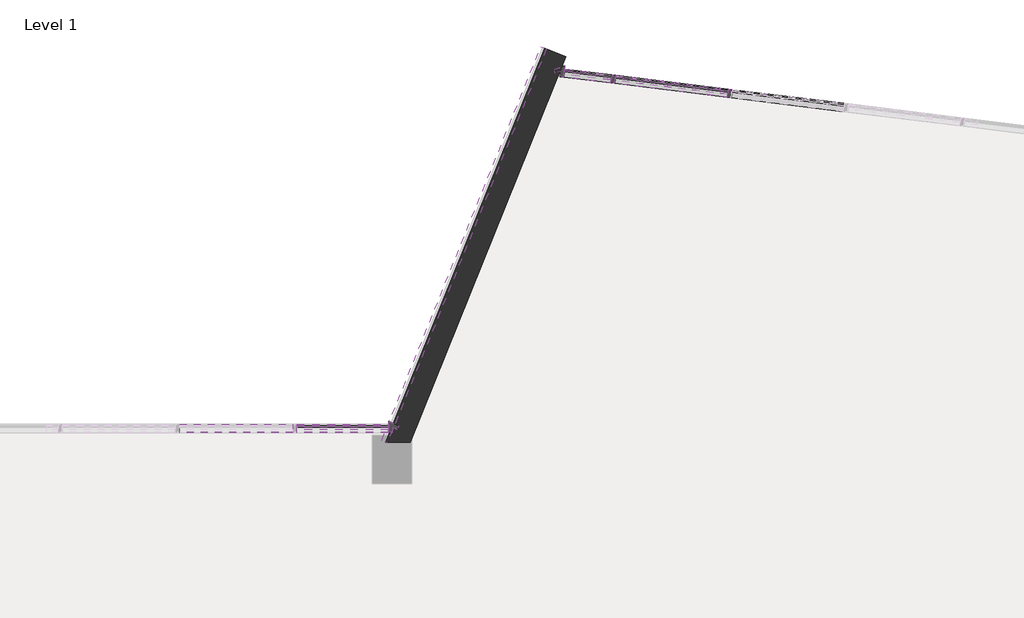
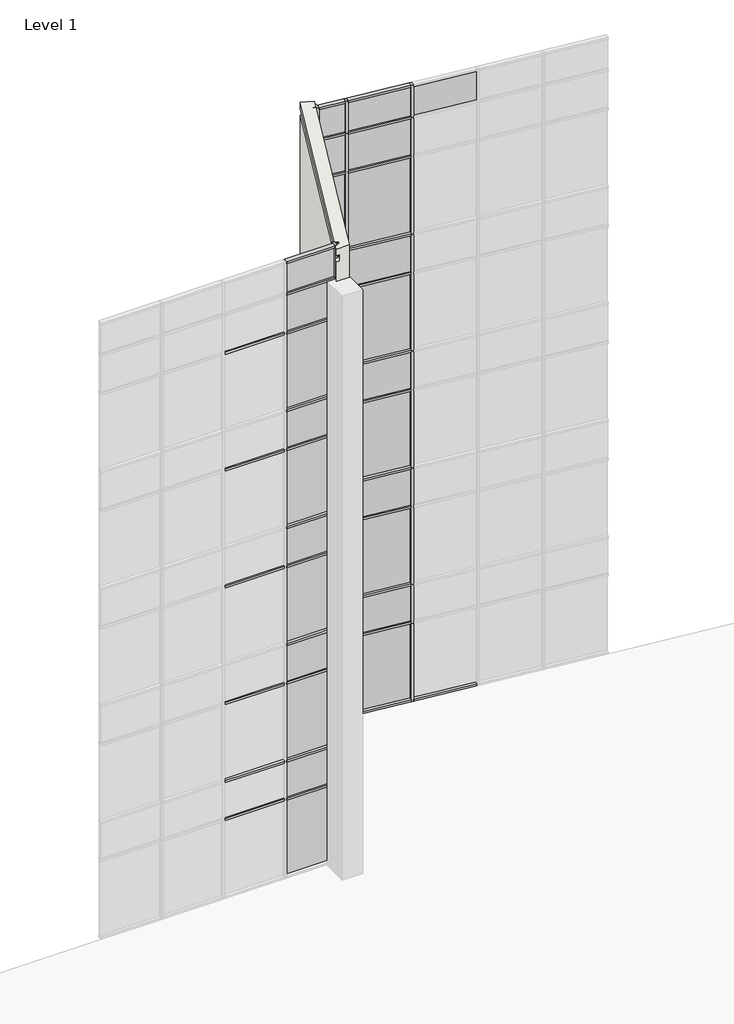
# One storey, part 15 of 23: 70 members, 34 plates, 3 proxies, 1 wall.
"""IFC4 building model written with IfcOpenShell, lengths in millimetres."""

from ifc_helpers import new_model, si_unit, frame, origin, place, context, project, spatial, polyline, outline, extrude, faceted_brep, transform, mapped, element, save
from components import member_2b49869a, member_f92b8aa2, member_810865a4, member_f0fea5a5, member_6d5c3e5e, member_9764dd38, member_68903c03, member_7219d7ff, member_cc38cd3f, member_0a5976d9, member_6a741917, member_6ebc2d4b, member_919c0065, member_55b94c3e, system_panel_glazed_14c75400, system_panel_glazed_66de9db6, system_panel_glazed_9a20f630, system_panel_solid_5dfe6f83, system_panel_solid_e25e2004, system_panel_solid_b7551183, system_panel_solid_d08dec6a, system_panel_solid_86eb1eeb, system_panel_solid_a5e4950d, system_panel_solid_056e0ced, system_panel_solid_5f34d272, system_panel_solid_2b1a41ae

model = new_model("IFC4")

# Units and contexts
model_context = context("Model", 3, world=origin())
ifc_project = project(units=[si_unit("LENGTHUNIT", "METRE", prefix="MILLI")], contexts=[model_context])

# Site, building, storey
site = spatial("IfcSite", under=ifc_project)
building = spatial("IfcBuilding", under=site)
storey = spatial("IfcBuildingStorey", under=building, Name="Level 1", Elevation=0.0)

# Proxies
placement = place(None, origin())
element("IfcBuildingElementProxy", 1, Name="Reveals", at=placement, inside=storey, context=model_context, shape_type="SweptSolid", body=[
    extrude(outline(polyline([(-32824.629873, 9795.5496433), (-32910.0003265, 9830.0415454), (-30426.2719644, 15977.4849617), (-30340.901511, 15942.9930596), (-32824.629873, 9795.5496433)])), frame((0.0, 0.0, 1625.6), z_axis=(0.0, 0.0, 1.0), x_axis=(1.0, 0.0, 0.0)), (0.0, 0.0, 1.0), 67.7333333),
])
element("IfcBuildingElementProxy", 2, Name="Reveals", at=placement, inside=storey, context=model_context, shape_type="SweptSolid", body=[
    extrude(outline(polyline([(-32824.629873, 9795.5496433), (-32910.0003265, 9830.0415454), (-30426.2719644, 15977.4849617), (-30340.901511, 15942.9930596), (-32824.629873, 9795.5496433)])), frame((0.0, 0.0, 2235.2), z_axis=(0.0, 0.0, 1.0), x_axis=(1.0, 0.0, 0.0)), (0.0, 0.0, 1.0), 67.7333333),
])
element("IfcBuildingElementProxy", 3, Name="Reveals", at=placement, inside=storey, context=model_context, shape_type="SweptSolid", body=[
    extrude(outline(polyline([(-32824.629873, 9795.5496433), (-32910.0003265, 9830.0415454), (-30426.2719644, 15977.4849617), (-30340.901511, 15942.9930596), (-32824.629873, 9795.5496433)])), frame((0.0, 0.0, 2844.8), z_axis=(0.0, 0.0, 1.0), x_axis=(1.0, 0.0, 0.0)), (0.0, 0.0, 1.0), 67.7333333),
])

# Members
member_shape = member_2b49869a(model_context)
element("IfcMember", 4, ObjectType="Rectangular Mullion : 2.5\" x 5\" rectangular", at=placement, inside=storey, context=model_context, shape_type="MappedRepresentation", body=[
    mapped(member_shape, transform((-27482.5203826, 15245.7903744, 2438.4), x_axis=(0.9925461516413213, -0.12186934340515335, 0.0), y_axis=(-0.12186934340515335, -0.9925461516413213, 0.0), z_axis=(0.0, 0.0, -1.0))),
])
element("IfcMember", 5, ObjectType="Rectangular Mullion : 2.5\" x 5\" rectangular", at=placement, inside=storey, context=model_context, shape_type="MappedRepresentation", body=[
    mapped(member_shape, transform((-29297.6887847, 15468.6650296, 2438.4), x_axis=(0.9925461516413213, -0.12186934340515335, 0.0), y_axis=(-0.12186934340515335, -0.9925461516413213, 0.0), z_axis=(0.0, 0.0, -1.0))),
])
member_2_shape = member_f92b8aa2(model_context)
element("IfcMember", 6, ObjectType="Rectangular Mullion : 2.5\" x 5\" rectangular", at=placement, inside=storey, context=model_context, shape_type="MappedRepresentation", body=[
    mapped(member_2_shape, transform((-27482.5203826, 15245.7903744, 18288.0), x_axis=(0.9925461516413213, -0.12186934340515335, 0.0), y_axis=(-0.12186934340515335, -0.9925461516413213, 0.0), z_axis=(0.0, 0.0, -1.0))),
])
element("IfcMember", 7, ObjectType="Rectangular Mullion : 2.5\" x 5\" rectangular", at=placement, inside=storey, context=model_context, shape_type="MappedRepresentation", body=[
    mapped(member_2_shape, transform((-29297.6887847, 15468.6650296, 18288.0), x_axis=(0.9925461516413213, -0.12186934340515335, 0.0), y_axis=(-0.12186934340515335, -0.9925461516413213, 0.0), z_axis=(0.0, 0.0, -1.0))),
])
member_3_shape = member_810865a4(model_context)
element("IfcMember", 8, ObjectType="Rectangular Mullion : 2.5\" x 5\" rectangular", at=placement, inside=storey, context=model_context, shape_type="MappedRepresentation", body=[
    mapped(member_3_shape, transform((-27482.5203826, 15245.7903744, 14630.4), x_axis=(0.9925461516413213, -0.12186934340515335, 0.0), y_axis=(-0.12186934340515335, -0.9925461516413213, 0.0), z_axis=(0.0, 0.0, -1.0))),
])
element("IfcMember", 9, ObjectType="Rectangular Mullion : 2.5\" x 5\" rectangular", at=placement, inside=storey, context=model_context, shape_type="MappedRepresentation", body=[
    mapped(member_3_shape, transform((-27482.5203826, 15245.7903744, 10972.8), x_axis=(0.9925461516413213, -0.12186934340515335, 0.0), y_axis=(-0.12186934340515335, -0.9925461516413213, 0.0), z_axis=(0.0, 0.0, -1.0))),
])
element("IfcMember", 10, ObjectType="Rectangular Mullion : 2.5\" x 5\" rectangular", at=placement, inside=storey, context=model_context, shape_type="MappedRepresentation", body=[
    mapped(member_3_shape, transform((-27482.5203826, 15245.7903744, 7315.2), x_axis=(0.9925461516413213, -0.12186934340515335, 0.0), y_axis=(-0.12186934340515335, -0.9925461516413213, 0.0), z_axis=(0.0, 0.0, -1.0))),
])
element("IfcMember", 11, ObjectType="Rectangular Mullion : 2.5\" x 5\" rectangular", at=placement, inside=storey, context=model_context, shape_type="MappedRepresentation", body=[
    mapped(member_3_shape, transform((-27482.5203826, 15245.7903744, 3657.6), x_axis=(0.9925461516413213, -0.12186934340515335, 0.0), y_axis=(-0.12186934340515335, -0.9925461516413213, 0.0), z_axis=(0.0, 0.0, -1.0))),
])
element("IfcMember", 12, ObjectType="Rectangular Mullion : 2.5\" x 5\" rectangular", at=placement, inside=storey, context=model_context, shape_type="MappedRepresentation", body=[
    mapped(member_3_shape, transform((-29297.6887847, 15468.6650296, 14630.4), x_axis=(0.9925461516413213, -0.12186934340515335, 0.0), y_axis=(-0.12186934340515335, -0.9925461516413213, 0.0), z_axis=(0.0, 0.0, -1.0))),
])
element("IfcMember", 13, ObjectType="Rectangular Mullion : 2.5\" x 5\" rectangular", at=placement, inside=storey, context=model_context, shape_type="MappedRepresentation", body=[
    mapped(member_3_shape, transform((-29297.6887847, 15468.6650296, 10972.8), x_axis=(0.9925461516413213, -0.12186934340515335, 0.0), y_axis=(-0.12186934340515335, -0.9925461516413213, 0.0), z_axis=(0.0, 0.0, -1.0))),
])
element("IfcMember", 14, ObjectType="Rectangular Mullion : 2.5\" x 5\" rectangular", at=placement, inside=storey, context=model_context, shape_type="MappedRepresentation", body=[
    mapped(member_3_shape, transform((-29297.6887847, 15468.6650296, 7315.2), x_axis=(0.9925461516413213, -0.12186934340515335, 0.0), y_axis=(-0.12186934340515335, -0.9925461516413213, 0.0), z_axis=(0.0, 0.0, -1.0))),
])
element("IfcMember", 15, ObjectType="Rectangular Mullion : 2.5\" x 5\" rectangular", at=placement, inside=storey, context=model_context, shape_type="MappedRepresentation", body=[
    mapped(member_3_shape, transform((-29297.6887847, 15468.6650296, 3657.6), x_axis=(0.9925461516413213, -0.12186934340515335, 0.0), y_axis=(-0.12186934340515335, -0.9925461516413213, 0.0), z_axis=(0.0, 0.0, -1.0))),
])
member_4_shape = member_f0fea5a5(model_context)
element("IfcMember", 16, ObjectType="Rectangular Mullion : 2.5\" x 5\" rectangular", at=placement, inside=storey, context=model_context, shape_type="MappedRepresentation", body=[
    mapped(member_4_shape, transform((-27482.5203826, 15245.7903744, 0.0), x_axis=(0.9925461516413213, -0.12186934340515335, 0.0), y_axis=(-0.12186934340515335, -0.9925461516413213, 0.0), z_axis=(0.0, 0.0, -1.0))),
])
element("IfcMember", 17, ObjectType="Rectangular Mullion : 2.5\" x 5\" rectangular", at=placement, inside=storey, context=model_context, shape_type="MappedRepresentation", body=[
    mapped(member_4_shape, transform((-29297.6887847, 15468.6650296, 0.0), x_axis=(0.9925461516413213, -0.12186934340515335, 0.0), y_axis=(-0.12186934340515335, -0.9925461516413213, 0.0), z_axis=(0.0, 0.0, -1.0))),
])
member_5_shape = member_6d5c3e5e(model_context)
element("IfcMember", 18, ObjectType="Rectangular Mullion : 2.5\" x 5\" rectangular", at=placement, inside=storey, context=model_context, shape_type="MappedRepresentation", body=[
    mapped(member_5_shape, transform((-27514.0337229, 15249.659726, 19304.0), x_axis=(0.0, 0.0, 1.0), y_axis=(-0.12186934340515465, -0.9925461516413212, 0.0), z_axis=(0.9925461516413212, -0.12186934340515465, 0.0))),
])
member_6_shape = member_9764dd38(model_context)
element("IfcMember", 19, ObjectType="Rectangular Mullion : 2.5\" x 5\" rectangular", at=placement, inside=storey, context=model_context, shape_type="MappedRepresentation", body=[
    mapped(member_6_shape, transform((-34300.3873649, 10017.7896508, 17068.8), x_axis=(0.0, 0.0, 1.0), y_axis=(0.0, -1.0, 0.0), z_axis=(1.0, 0.0, 0.0))),
])
element("IfcMember", 20, ObjectType="Rectangular Mullion : 2.5\" x 5\" rectangular", at=placement, inside=storey, context=model_context, shape_type="MappedRepresentation", body=[
    mapped(member_6_shape, transform((-34300.3873649, 10017.7896508, 13411.2), x_axis=(0.0, 0.0, 1.0), y_axis=(0.0, -1.0, 0.0), z_axis=(1.0, 0.0, 0.0))),
])
element("IfcMember", 21, ObjectType="Rectangular Mullion : 2.5\" x 5\" rectangular", at=placement, inside=storey, context=model_context, shape_type="MappedRepresentation", body=[
    mapped(member_6_shape, transform((-34300.3873649, 10017.7896508, 9753.6), x_axis=(0.0, 0.0, 1.0), y_axis=(0.0, -1.0, 0.0), z_axis=(1.0, 0.0, 0.0))),
])
element("IfcMember", 22, ObjectType="Rectangular Mullion : 2.5\" x 5\" rectangular", at=placement, inside=storey, context=model_context, shape_type="MappedRepresentation", body=[
    mapped(member_6_shape, transform((-34300.3873649, 10017.7896508, 6096.0), x_axis=(0.0, 0.0, 1.0), y_axis=(0.0, -1.0, 0.0), z_axis=(1.0, 0.0, 0.0))),
])
element("IfcMember", 23, ObjectType="Rectangular Mullion : 2.5\" x 5\" rectangular", at=placement, inside=storey, context=model_context, shape_type="MappedRepresentation", body=[
    mapped(member_6_shape, transform((-34300.3873649, 10017.7896508, 2470.15), x_axis=(0.0, 0.0, 1.0), y_axis=(0.0, -1.0, 0.0), z_axis=(1.0, 0.0, 0.0))),
])
element("IfcMember", 24, ObjectType="Rectangular Mullion : 2.5\" x 5\" rectangular", at=placement, inside=storey, context=model_context, shape_type="MappedRepresentation", body=[
    mapped(member_6_shape, transform((-27514.0337229, 15249.659726, 17068.8), x_axis=(0.0, 0.0, 1.0), y_axis=(-0.12186934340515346, -0.9925461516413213, 0.0), z_axis=(0.9925461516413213, -0.12186934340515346, 0.0))),
])
element("IfcMember", 25, ObjectType="Rectangular Mullion : 2.5\" x 5\" rectangular", at=placement, inside=storey, context=model_context, shape_type="MappedRepresentation", body=[
    mapped(member_6_shape, transform((-27514.0337229, 15249.659726, 13411.2), x_axis=(0.0, 0.0, 1.0), y_axis=(-0.12186934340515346, -0.9925461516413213, 0.0), z_axis=(0.9925461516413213, -0.12186934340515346, 0.0))),
])
element("IfcMember", 26, ObjectType="Rectangular Mullion : 2.5\" x 5\" rectangular", at=placement, inside=storey, context=model_context, shape_type="MappedRepresentation", body=[
    mapped(member_6_shape, transform((-27514.0337229, 15249.659726, 9753.6), x_axis=(0.0, 0.0, 1.0), y_axis=(-0.12186934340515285, -0.9925461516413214, 0.0), z_axis=(0.9925461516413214, -0.12186934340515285, 0.0))),
])
element("IfcMember", 27, ObjectType="Rectangular Mullion : 2.5\" x 5\" rectangular", at=placement, inside=storey, context=model_context, shape_type="MappedRepresentation", body=[
    mapped(member_6_shape, transform((-27514.0337229, 15249.659726, 6096.0), x_axis=(0.0, 0.0, 1.0), y_axis=(-0.12186934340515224, -0.9925461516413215, 0.0), z_axis=(0.9925461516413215, -0.12186934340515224, 0.0))),
])
element("IfcMember", 28, ObjectType="Rectangular Mullion : 2.5\" x 5\" rectangular", at=placement, inside=storey, context=model_context, shape_type="MappedRepresentation", body=[
    mapped(member_6_shape, transform((-27514.0337229, 15249.659726, 2470.15), x_axis=(0.0, 0.0, 1.0), y_axis=(-0.12186934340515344, -0.9925461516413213, 0.0), z_axis=(0.9925461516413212, -0.12186934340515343, 0.0))),
])
member_7_shape = member_68903c03(model_context)
element("IfcMember", 29, ObjectType="Rectangular Mullion : 2.5\" x 5\" rectangular", at=placement, inside=storey, context=model_context, shape_type="MappedRepresentation", body=[
    mapped(member_7_shape, transform((-32803.9376149, 10017.7896508, 19304.0), x_axis=(0.0, 0.0, 1.0), y_axis=(0.0, -1.0, 0.0), z_axis=(1.0, 0.0, 0.0))),
])
member_8_shape = member_7219d7ff(model_context)
element("IfcMember", 30, ObjectType="Rectangular Mullion : 2.5\" x 5\" rectangular", at=placement, inside=storey, context=model_context, shape_type="MappedRepresentation", body=[
    mapped(member_8_shape, transform((-29329.202125, 15472.5343812, 19304.0), x_axis=(0.0, 0.0, 1.0), y_axis=(-0.1218693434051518, -0.9925461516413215, 0.0), z_axis=(0.9925461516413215, -0.1218693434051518, 0.0))),
])
member_9_shape = member_cc38cd3f(model_context)
element("IfcMember", 31, ObjectType="Rectangular Mullion : 2.5\" x 5\" rectangular", at=placement, inside=storey, context=model_context, shape_type="MappedRepresentation", body=[
    mapped(member_9_shape, transform((-32803.9376149, 10017.7896508, 17068.8), x_axis=(0.0, 0.0, 1.0), y_axis=(0.0, -1.0, 0.0), z_axis=(1.0, 0.0, 0.0))),
])
element("IfcMember", 32, ObjectType="Rectangular Mullion : 2.5\" x 5\" rectangular", at=placement, inside=storey, context=model_context, shape_type="MappedRepresentation", body=[
    mapped(member_9_shape, transform((-32803.9376149, 10017.7896508, 13411.2), x_axis=(0.0, 0.0, 1.0), y_axis=(0.0, -1.0, 0.0), z_axis=(1.0, 0.0, 0.0))),
])
element("IfcMember", 33, ObjectType="Rectangular Mullion : 2.5\" x 5\" rectangular", at=placement, inside=storey, context=model_context, shape_type="MappedRepresentation", body=[
    mapped(member_9_shape, transform((-32803.9376149, 10017.7896508, 9753.6), x_axis=(0.0, 0.0, 1.0), y_axis=(0.0, -1.0, 0.0), z_axis=(1.0, 0.0, 0.0))),
])
element("IfcMember", 34, ObjectType="Rectangular Mullion : 2.5\" x 5\" rectangular", at=placement, inside=storey, context=model_context, shape_type="MappedRepresentation", body=[
    mapped(member_9_shape, transform((-32803.9376149, 10017.7896508, 6096.0), x_axis=(0.0, 0.0, 1.0), y_axis=(0.0, -1.0, 0.0), z_axis=(1.0, 0.0, 0.0))),
])
element("IfcMember", 35, ObjectType="Rectangular Mullion : 2.5\" x 5\" rectangular", at=placement, inside=storey, context=model_context, shape_type="MappedRepresentation", body=[
    mapped(member_9_shape, transform((-32803.9376149, 10017.7896508, 2470.15), x_axis=(0.0, 0.0, 1.0), y_axis=(0.0, -1.0, 0.0), z_axis=(1.0, 0.0, 0.0))),
])
member_10_shape = member_0a5976d9(model_context)
element("IfcMember", 36, ObjectType="Rectangular Mullion : 2.5\" x 5\" rectangular", at=placement, inside=storey, context=model_context, shape_type="MappedRepresentation", body=[
    mapped(member_10_shape, transform((-29329.202125, 15472.5343812, 17068.8), x_axis=(0.0, 0.0, 1.0), y_axis=(-0.121869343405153, -0.9925461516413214, 0.0), z_axis=(0.9925461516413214, -0.121869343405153, 0.0))),
])
element("IfcMember", 37, ObjectType="Rectangular Mullion : 2.5\" x 5\" rectangular", at=placement, inside=storey, context=model_context, shape_type="MappedRepresentation", body=[
    mapped(member_10_shape, transform((-29329.202125, 15472.5343812, 13411.2), x_axis=(0.0, 0.0, 1.0), y_axis=(-0.12186934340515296, -0.9925461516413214, 0.0), z_axis=(0.9925461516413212, -0.12186934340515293, 0.0))),
])
element("IfcMember", 38, ObjectType="Rectangular Mullion : 2.5\" x 5\" rectangular", at=placement, inside=storey, context=model_context, shape_type="MappedRepresentation", body=[
    mapped(member_10_shape, transform((-29329.202125, 15472.5343812, 9753.6), x_axis=(0.0, 0.0, 1.0), y_axis=(-0.121869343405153, -0.9925461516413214, 0.0), z_axis=(0.9925461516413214, -0.121869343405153, 0.0))),
])
element("IfcMember", 39, ObjectType="Rectangular Mullion : 2.5\" x 5\" rectangular", at=placement, inside=storey, context=model_context, shape_type="MappedRepresentation", body=[
    mapped(member_10_shape, transform((-29329.202125, 15472.5343812, 6096.0), x_axis=(0.0, 0.0, 1.0), y_axis=(-0.12186934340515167, -0.9925461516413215, 0.0), z_axis=(0.9925461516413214, -0.12186934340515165, 0.0))),
])
element("IfcMember", 40, ObjectType="Rectangular Mullion : 2.5\" x 5\" rectangular", at=placement, inside=storey, context=model_context, shape_type="MappedRepresentation", body=[
    mapped(member_10_shape, transform((-29329.202125, 15472.5343812, 2470.15), x_axis=(0.0, 0.0, 1.0), y_axis=(-0.12186934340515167, -0.9925461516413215, 0.0), z_axis=(0.9925461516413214, -0.12186934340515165, 0.0))),
])
element("IfcMember", 41, ObjectType="Rectangular Mullion : 2.5\" x 5\" rectangular", at=placement, inside=storey, context=model_context, shape_type="MappedRepresentation", body=[
    mapped(member_5_shape, transform((-27451.0070423, 15241.9210227, 0.0), x_axis=(0.0, 0.0, -1.0), y_axis=(-0.12186934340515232, -0.9925461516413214, 0.0), z_axis=(-0.9925461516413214, 0.12186934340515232, 0.0))),
])
element("IfcMember", 42, ObjectType="Rectangular Mullion : 2.5\" x 5\" rectangular", at=placement, inside=storey, context=model_context, shape_type="MappedRepresentation", body=[
    mapped(member_5_shape, transform((-29266.1754444, 15464.7956779, 0.0), x_axis=(0.0, 0.0, -1.0), y_axis=(-0.12186934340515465, -0.9925461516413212, 0.0), z_axis=(-0.9925461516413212, 0.12186934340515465, 0.0))),
])
element("IfcMember", 43, ObjectType="Rectangular Mullion : 2.5\" x 5\" rectangular", at=placement, inside=storey, context=model_context, shape_type="MappedRepresentation", body=[
    mapped(member_8_shape, transform((-30066.1590207, 15563.0213101, 0.0), x_axis=(0.0, 0.0, -1.0), y_axis=(-0.1218693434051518, -0.9925461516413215, 0.0), z_axis=(-0.9925461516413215, 0.1218693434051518, 0.0))),
])
element("IfcMember", 44, ObjectType="Rectangular Mullion : 2.5\" x 5\" rectangular", at=placement, inside=storey, context=model_context, shape_type="MappedRepresentation", body=[
    mapped(member_6_shape, transform((-27514.0337229, 15249.659726, 10972.8), x_axis=(0.0, 0.0, 1.0), y_axis=(-0.12186934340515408, -0.9925461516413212, 0.0), z_axis=(0.9925461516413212, -0.12186934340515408, 0.0))),
])
element("IfcMember", 45, ObjectType="Rectangular Mullion : 2.5\" x 5\" rectangular", at=placement, inside=storey, context=model_context, shape_type="MappedRepresentation", body=[
    mapped(member_6_shape, transform((-27514.0337229, 15249.659726, 7315.2), x_axis=(0.0, 0.0, 1.0), y_axis=(-0.12186934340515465, -0.9925461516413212, 0.0), z_axis=(0.9925461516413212, -0.12186934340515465, 0.0))),
])
element("IfcMember", 46, ObjectType="Rectangular Mullion : 2.5\" x 5\" rectangular", at=placement, inside=storey, context=model_context, shape_type="MappedRepresentation", body=[
    mapped(member_6_shape, transform((-27514.0337229, 15249.659726, 18288.0), x_axis=(0.0, 0.0, 1.0), y_axis=(-0.12186934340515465, -0.9925461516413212, 0.0), z_axis=(0.9925461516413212, -0.12186934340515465, 0.0))),
])
element("IfcMember", 47, ObjectType="Rectangular Mullion : 2.5\" x 5\" rectangular", at=placement, inside=storey, context=model_context, shape_type="MappedRepresentation", body=[
    mapped(member_6_shape, transform((-27514.0337229, 15249.659726, 14630.4), x_axis=(0.0, 0.0, 1.0), y_axis=(-0.12186934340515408, -0.9925461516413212, 0.0), z_axis=(0.9925461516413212, -0.12186934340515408, 0.0))),
])
element("IfcMember", 48, ObjectType="Rectangular Mullion : 2.5\" x 5\" rectangular", at=placement, inside=storey, context=model_context, shape_type="MappedRepresentation", body=[
    mapped(member_6_shape, transform((-27514.0337229, 15249.659726, 3657.6), x_axis=(0.0, 0.0, 1.0), y_axis=(-0.12186934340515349, -0.9925461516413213, 0.0), z_axis=(0.9925461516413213, -0.12186934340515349, 0.0))),
])
element("IfcMember", 49, ObjectType="Rectangular Mullion : 2.5\" x 5\" rectangular", at=placement, inside=storey, context=model_context, shape_type="MappedRepresentation", body=[
    mapped(member_6_shape, transform((-34300.3873649, 10017.7896508, 3657.6), x_axis=(0.0, 0.0, 1.0), y_axis=(0.0, -1.0, 0.0), z_axis=(1.0, 0.0, 0.0))),
])
element("IfcMember", 50, ObjectType="Rectangular Mullion : 2.5\" x 5\" rectangular", at=placement, inside=storey, context=model_context, shape_type="MappedRepresentation", body=[
    mapped(member_9_shape, transform((-32803.9376149, 10017.7896508, 10972.8), x_axis=(0.0, 0.0, 1.0), y_axis=(0.0, -1.0, 0.0), z_axis=(1.0, 0.0, 0.0))),
])
element("IfcMember", 51, ObjectType="Rectangular Mullion : 2.5\" x 5\" rectangular", at=placement, inside=storey, context=model_context, shape_type="MappedRepresentation", body=[
    mapped(member_9_shape, transform((-32803.9376149, 10017.7896508, 7315.2), x_axis=(0.0, 0.0, 1.0), y_axis=(0.0, -1.0, 0.0), z_axis=(1.0, 0.0, 0.0))),
])
element("IfcMember", 52, ObjectType="Rectangular Mullion : 2.5\" x 5\" rectangular", at=placement, inside=storey, context=model_context, shape_type="MappedRepresentation", body=[
    mapped(member_9_shape, transform((-32803.9376149, 10017.7896508, 18288.0), x_axis=(0.0, 0.0, 1.0), y_axis=(0.0, -1.0, 0.0), z_axis=(1.0, 0.0, 0.0))),
])
element("IfcMember", 53, ObjectType="Rectangular Mullion : 2.5\" x 5\" rectangular", at=placement, inside=storey, context=model_context, shape_type="MappedRepresentation", body=[
    mapped(member_9_shape, transform((-32803.9376149, 10017.7896508, 14630.4), x_axis=(0.0, 0.0, 1.0), y_axis=(0.0, -1.0, 0.0), z_axis=(1.0, 0.0, 0.0))),
])
element("IfcMember", 54, ObjectType="Rectangular Mullion : 2.5\" x 5\" rectangular", at=placement, inside=storey, context=model_context, shape_type="MappedRepresentation", body=[
    mapped(member_9_shape, transform((-32803.9376149, 10017.7896508, 3657.6), x_axis=(0.0, 0.0, 1.0), y_axis=(0.0, -1.0, 0.0), z_axis=(1.0, 0.0, 0.0))),
])
element("IfcMember", 55, ObjectType="Rectangular Mullion : 2.5\" x 5\" rectangular", at=placement, inside=storey, context=model_context, shape_type="MappedRepresentation", body=[
    mapped(member_10_shape, transform((-29329.202125, 15472.5343812, 10972.8), x_axis=(0.0, 0.0, 1.0), y_axis=(-0.12186934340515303, -0.9925461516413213, 0.0), z_axis=(0.9925461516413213, -0.12186934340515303, 0.0))),
])
element("IfcMember", 56, ObjectType="Rectangular Mullion : 2.5\" x 5\" rectangular", at=placement, inside=storey, context=model_context, shape_type="MappedRepresentation", body=[
    mapped(member_10_shape, transform((-29329.202125, 15472.5343812, 7315.2), x_axis=(0.0, 0.0, 1.0), y_axis=(-0.1218693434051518, -0.9925461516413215, 0.0), z_axis=(0.9925461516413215, -0.1218693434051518, 0.0))),
])
element("IfcMember", 57, ObjectType="Rectangular Mullion : 2.5\" x 5\" rectangular", at=placement, inside=storey, context=model_context, shape_type="MappedRepresentation", body=[
    mapped(member_10_shape, transform((-29329.202125, 15472.5343812, 18288.0), x_axis=(0.0, 0.0, 1.0), y_axis=(-0.1218693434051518, -0.9925461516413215, 0.0), z_axis=(0.9925461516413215, -0.1218693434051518, 0.0))),
])
element("IfcMember", 58, ObjectType="Rectangular Mullion : 2.5\" x 5\" rectangular", at=placement, inside=storey, context=model_context, shape_type="MappedRepresentation", body=[
    mapped(member_10_shape, transform((-29329.202125, 15472.5343812, 14630.4), x_axis=(0.0, 0.0, 1.0), y_axis=(-0.12186934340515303, -0.9925461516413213, 0.0), z_axis=(0.9925461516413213, -0.12186934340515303, 0.0))),
])
element("IfcMember", 59, ObjectType="Rectangular Mullion : 2.5\" x 5\" rectangular", at=placement, inside=storey, context=model_context, shape_type="MappedRepresentation", body=[
    mapped(member_10_shape, transform((-29329.202125, 15472.5343812, 3657.6), x_axis=(0.0, 0.0, 1.0), y_axis=(-0.12186934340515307, -0.9925461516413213, 0.0), z_axis=(0.9925461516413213, -0.12186934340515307, 0.0))),
])
member_11_shape = member_6a741917(model_context)
element("IfcMember", 60, ObjectType="V Corner Mullion : 5\" V Corner", at=placement, inside=storey, context=model_context, shape_type="MappedRepresentation", body=[
    mapped(member_11_shape, transform((-32731.4147338, 10017.7896508, 0.0), x_axis=(1.0, 0.0, 0.0), y_axis=(0.0, -1.0, 0.0), z_axis=(0.0, 0.0, -1.0))),
])
member_12_shape = member_6ebc2d4b(model_context)
element("IfcMember", 61, ObjectType="V Corner Mullion : 5\" V Corner", at=placement, inside=storey, context=model_context, shape_type="MappedRepresentation", body=[
    mapped(member_12_shape, transform((-32731.4147338, 10017.7896508, 3657.6), x_axis=(1.0, 0.0, 0.0), y_axis=(0.0, -1.0, 0.0), z_axis=(0.0, 0.0, -1.0))),
])
element("IfcMember", 62, ObjectType="V Corner Mullion : 5\" V Corner", at=placement, inside=storey, context=model_context, shape_type="MappedRepresentation", body=[
    mapped(member_12_shape, transform((-32731.4147338, 10017.7896508, 7315.2), x_axis=(1.0, 0.0, 0.0), y_axis=(0.0, -1.0, 0.0), z_axis=(0.0, 0.0, -1.0))),
])
element("IfcMember", 63, ObjectType="V Corner Mullion : 5\" V Corner", at=placement, inside=storey, context=model_context, shape_type="MappedRepresentation", body=[
    mapped(member_12_shape, transform((-32731.4147338, 10017.7896508, 10972.8), x_axis=(1.0, 0.0, 0.0), y_axis=(0.0, -1.0, 0.0), z_axis=(0.0, 0.0, -1.0))),
])
element("IfcMember", 64, ObjectType="V Corner Mullion : 5\" V Corner", at=placement, inside=storey, context=model_context, shape_type="MappedRepresentation", body=[
    mapped(member_12_shape, transform((-32731.4147338, 10017.7896508, 14630.4), x_axis=(1.0, 0.0, 0.0), y_axis=(0.0, -1.0, 0.0), z_axis=(0.0, 0.0, -1.0))),
])
member_13_shape = member_919c0065(model_context)
element("IfcMember", 65, ObjectType="V Corner Mullion : 5\" V Corner", at=placement, inside=storey, context=model_context, shape_type="MappedRepresentation", body=[
    mapped(member_13_shape, transform((-32731.4147338, 10017.7896508, 18288.0), x_axis=(1.0, 0.0, 0.0), y_axis=(0.0, -1.0, 0.0), z_axis=(0.0, 0.0, -1.0))),
])
member_14_shape = member_55b94c3e(model_context)
element("IfcMember", 66, ObjectType="V Corner Mullion : 5\" V Corner", at=placement, inside=storey, context=model_context, shape_type="MappedRepresentation", body=[
    mapped(member_14_shape, transform((-32731.4147338, 10017.7896508, 2438.4), x_axis=(1.0, 0.0, 0.0), y_axis=(0.0, -1.0, 0.0), z_axis=(0.0, 0.0, -1.0))),
])
element("IfcMember", 67, ObjectType="V Corner Mullion : 5\" V Corner", at=placement, inside=storey, context=model_context, shape_type="MappedRepresentation", body=[
    mapped(member_13_shape, transform((-30138.1413273, 15571.859626, 19304.0), x_axis=(-0.9925461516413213, 0.12186934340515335, 0.0), y_axis=(-0.12186934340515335, -0.9925461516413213, 0.0), z_axis=(0.0, 0.0, 1.0))),
])
element("IfcMember", 68, ObjectType="V Corner Mullion : 5\" V Corner", at=placement, inside=storey, context=model_context, shape_type="MappedRepresentation", body=[
    mapped(member_11_shape, transform((-30138.1413273, 15571.859626, 2438.4), x_axis=(-0.9925461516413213, 0.12186934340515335, 0.0), y_axis=(-0.12186934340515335, -0.9925461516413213, 0.0), z_axis=(0.0, 0.0, 1.0))),
])
element("IfcMember", 69, ObjectType="V Corner Mullion : 5\" V Corner", at=placement, inside=storey, context=model_context, shape_type="MappedRepresentation", body=[
    mapped(member_14_shape, transform((-30138.1413273, 15571.859626, 3657.6), x_axis=(-0.9925461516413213, 0.12186934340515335, 0.0), y_axis=(-0.12186934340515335, -0.9925461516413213, 0.0), z_axis=(0.0, 0.0, 1.0))),
])
element("IfcMember", 70, ObjectType="V Corner Mullion : 5\" V Corner", at=placement, inside=storey, context=model_context, shape_type="MappedRepresentation", body=[
    mapped(member_12_shape, transform((-30138.1413273, 15571.859626, 7315.2), x_axis=(-0.9925461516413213, 0.12186934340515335, 0.0), y_axis=(-0.12186934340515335, -0.9925461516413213, 0.0), z_axis=(0.0, 0.0, 1.0))),
])
element("IfcMember", 71, ObjectType="V Corner Mullion : 5\" V Corner", at=placement, inside=storey, context=model_context, shape_type="MappedRepresentation", body=[
    mapped(member_12_shape, transform((-30138.1413273, 15571.859626, 10972.8), x_axis=(-0.9925461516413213, 0.12186934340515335, 0.0), y_axis=(-0.12186934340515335, -0.9925461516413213, 0.0), z_axis=(0.0, 0.0, 1.0))),
])
element("IfcMember", 72, ObjectType="V Corner Mullion : 5\" V Corner", at=placement, inside=storey, context=model_context, shape_type="MappedRepresentation", body=[
    mapped(member_12_shape, transform((-30138.1413273, 15571.859626, 14630.4), x_axis=(-0.9925461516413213, 0.12186934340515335, 0.0), y_axis=(-0.12186934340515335, -0.9925461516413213, 0.0), z_axis=(0.0, 0.0, 1.0))),
])
element("IfcMember", 73, ObjectType="V Corner Mullion : 5\" V Corner", at=placement, inside=storey, context=model_context, shape_type="MappedRepresentation", body=[
    mapped(member_12_shape, transform((-30138.1413273, 15571.859626, 18288.0), x_axis=(-0.9925461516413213, 0.12186934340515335, 0.0), y_axis=(-0.12186934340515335, -0.9925461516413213, 0.0), z_axis=(0.0, 0.0, 1.0))),
])

# Plates
system_panel_glazed_shape = system_panel_glazed_14c75400(model_context)
element("IfcPlate", 74, ObjectType="System Panel : Glazed", at=placement, inside=storey, context=model_context, shape_type="MappedRepresentation", body=[
    mapped(system_panel_glazed_shape, transform((-28390.1045836, 15357.227702, 14662.15), x_axis=(0.9925461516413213, -0.12186934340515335, 0.0), y_axis=(0.12186934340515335, 0.9925461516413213, 0.0), z_axis=(0.0, 0.0, 1.0))),
])
element("IfcPlate", 75, ObjectType="System Panel : Glazed", at=placement, inside=storey, context=model_context, shape_type="MappedRepresentation", body=[
    mapped(system_panel_glazed_shape, transform((-28390.1045836, 15357.227702, 11004.55), x_axis=(0.9925461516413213, -0.12186934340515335, 0.0), y_axis=(0.12186934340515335, 0.9925461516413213, 0.0), z_axis=(0.0, 0.0, 1.0))),
])
element("IfcPlate", 76, ObjectType="System Panel : Glazed", at=placement, inside=storey, context=model_context, shape_type="MappedRepresentation", body=[
    mapped(system_panel_glazed_shape, transform((-28390.1045836, 15357.227702, 7346.95), x_axis=(0.9925461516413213, -0.12186934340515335, 0.0), y_axis=(0.12186934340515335, 0.9925461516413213, 0.0), z_axis=(0.0, 0.0, 1.0))),
])
element("IfcPlate", 77, ObjectType="System Panel : Glazed", at=placement, inside=storey, context=model_context, shape_type="MappedRepresentation", body=[
    mapped(system_panel_glazed_shape, transform((-28390.1045836, 15357.227702, 3689.35), x_axis=(0.9925461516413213, -0.12186934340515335, 0.0), y_axis=(0.12186934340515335, 0.9925461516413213, 0.0), z_axis=(0.0, 0.0, 1.0))),
])
element("IfcPlate", 78, ObjectType="System Panel : Glazed", at=placement, inside=storey, context=model_context, shape_type="MappedRepresentation", body=[
    mapped(system_panel_glazed_shape, transform((-28390.1045836, 15357.227702, 63.5), x_axis=(0.9925461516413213, -0.12186934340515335, 0.0), y_axis=(0.12186934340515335, 0.9925461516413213, 0.0), z_axis=(0.0, 0.0, 1.0))),
])
system_panel_glazed_2_shape = system_panel_glazed_66de9db6(model_context)
element("IfcPlate", 79, ObjectType="System Panel : Glazed", at=placement, inside=storey, context=model_context, shape_type="MappedRepresentation", body=[
    mapped(system_panel_glazed_2_shape, transform((-33520.4124899, 10017.7896508, 14662.15), x_axis=(1.0, 0.0, 0.0), y_axis=(0.0, 1.0, 0.0), z_axis=(0.0, 0.0, 1.0))),
])
element("IfcPlate", 80, ObjectType="System Panel : Glazed", at=placement, inside=storey, context=model_context, shape_type="MappedRepresentation", body=[
    mapped(system_panel_glazed_2_shape, transform((-33520.4124899, 10017.7896508, 11004.55), x_axis=(1.0, 0.0, 0.0), y_axis=(0.0, 1.0, 0.0), z_axis=(0.0, 0.0, 1.0))),
])
element("IfcPlate", 81, ObjectType="System Panel : Glazed", at=placement, inside=storey, context=model_context, shape_type="MappedRepresentation", body=[
    mapped(system_panel_glazed_2_shape, transform((-33520.4124899, 10017.7896508, 7346.95), x_axis=(1.0, 0.0, 0.0), y_axis=(0.0, 1.0, 0.0), z_axis=(0.0, 0.0, 1.0))),
])
element("IfcPlate", 82, ObjectType="System Panel : Glazed", at=placement, inside=storey, context=model_context, shape_type="MappedRepresentation", body=[
    mapped(system_panel_glazed_2_shape, transform((-33520.4124899, 10017.7896508, 3689.35), x_axis=(1.0, 0.0, 0.0), y_axis=(0.0, 1.0, 0.0), z_axis=(0.0, 0.0, 1.0))),
])
element("IfcPlate", 83, ObjectType="System Panel : Glazed", at=placement, inside=storey, context=model_context, shape_type="MappedRepresentation", body=[
    mapped(system_panel_glazed_2_shape, transform((-33520.4124899, 10017.7896508, 63.5), x_axis=(1.0, 0.0, 0.0), y_axis=(0.0, 1.0, 0.0), z_axis=(0.0, 0.0, 1.0))),
])
system_panel_glazed_3_shape = system_panel_glazed_9a20f630(model_context)
element("IfcPlate", 84, ObjectType="System Panel : Glazed", at=placement, inside=storey, context=model_context, shape_type="MappedRepresentation", body=[
    mapped(system_panel_glazed_3_shape, transform((-29697.6805729, 15517.7778457, 14662.15), x_axis=(0.9925461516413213, -0.12186934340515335, 0.0), y_axis=(0.12186934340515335, 0.9925461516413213, 0.0), z_axis=(0.0, 0.0, 1.0))),
])
element("IfcPlate", 85, ObjectType="System Panel : Glazed", at=placement, inside=storey, context=model_context, shape_type="MappedRepresentation", body=[
    mapped(system_panel_glazed_3_shape, transform((-29697.6805729, 15517.7778457, 11004.55), x_axis=(0.9925461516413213, -0.12186934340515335, 0.0), y_axis=(0.12186934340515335, 0.9925461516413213, 0.0), z_axis=(0.0, 0.0, 1.0))),
])
element("IfcPlate", 86, ObjectType="System Panel : Glazed", at=placement, inside=storey, context=model_context, shape_type="MappedRepresentation", body=[
    mapped(system_panel_glazed_3_shape, transform((-29697.6805729, 15517.7778457, 7346.95), x_axis=(0.9925461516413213, -0.12186934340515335, 0.0), y_axis=(0.12186934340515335, 0.9925461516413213, 0.0), z_axis=(0.0, 0.0, 1.0))),
])
element("IfcPlate", 87, ObjectType="System Panel : Glazed", at=placement, inside=storey, context=model_context, shape_type="MappedRepresentation", body=[
    mapped(system_panel_glazed_3_shape, transform((-29697.6805729, 15517.7778457, 3689.35), x_axis=(0.9925461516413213, -0.12186934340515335, 0.0), y_axis=(0.12186934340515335, 0.9925461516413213, 0.0), z_axis=(0.0, 0.0, 1.0))),
])
element("IfcPlate", 88, ObjectType="System Panel : Glazed", at=placement, inside=storey, context=model_context, shape_type="MappedRepresentation", body=[
    mapped(system_panel_glazed_3_shape, transform((-29697.6805729, 15517.7778457, 63.5), x_axis=(0.9925461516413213, -0.12186934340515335, 0.0), y_axis=(0.12186934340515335, 0.9925461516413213, 0.0), z_axis=(0.0, 0.0, 1.0))),
])
system_panel_solid_shape = system_panel_solid_5dfe6f83(model_context)
element("IfcPlate", 89, ObjectType="System Panel : Solid", at=placement, inside=storey, context=model_context, shape_type="MappedRepresentation", body=[
    mapped(system_panel_solid_shape, transform((-28390.1045836, 15357.227702, 18319.75), x_axis=(0.9925461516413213, -0.12186934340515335, 0.0), y_axis=(0.12186934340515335, 0.9925461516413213, 0.0), z_axis=(0.0, 0.0, 1.0))),
])
element("IfcPlate", 90, ObjectType="System Panel : Solid", at=placement, inside=storey, context=model_context, shape_type="MappedRepresentation", body=[
    mapped(system_panel_solid_shape, transform((-26574.9361815, 15134.3530468, 18319.75), x_axis=(0.9925461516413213, -0.12186934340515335, 0.0), y_axis=(0.12186934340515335, 0.9925461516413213, 0.0), z_axis=(0.0, 0.0, 1.0))),
])
system_panel_solid_2_shape = system_panel_solid_e25e2004(model_context)
element("IfcPlate", 91, ObjectType="System Panel : Solid", at=placement, inside=storey, context=model_context, shape_type="MappedRepresentation", body=[
    mapped(system_panel_solid_2_shape, transform((-28390.1045836, 15357.227702, 17100.55), x_axis=(0.9925461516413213, -0.12186934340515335, 0.0), y_axis=(0.12186934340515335, 0.9925461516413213, 0.0), z_axis=(0.0, 0.0, 1.0))),
])
element("IfcPlate", 92, ObjectType="System Panel : Solid", at=placement, inside=storey, context=model_context, shape_type="MappedRepresentation", body=[
    mapped(system_panel_solid_2_shape, transform((-28390.1045836, 15357.227702, 13442.95), x_axis=(0.9925461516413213, -0.12186934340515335, 0.0), y_axis=(0.12186934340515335, 0.9925461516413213, 0.0), z_axis=(0.0, 0.0, 1.0))),
])
element("IfcPlate", 93, ObjectType="System Panel : Solid", at=placement, inside=storey, context=model_context, shape_type="MappedRepresentation", body=[
    mapped(system_panel_solid_2_shape, transform((-28390.1045836, 15357.227702, 9785.35), x_axis=(0.9925461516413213, -0.12186934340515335, 0.0), y_axis=(0.12186934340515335, 0.9925461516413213, 0.0), z_axis=(0.0, 0.0, 1.0))),
])
element("IfcPlate", 94, ObjectType="System Panel : Solid", at=placement, inside=storey, context=model_context, shape_type="MappedRepresentation", body=[
    mapped(system_panel_solid_2_shape, transform((-28390.1045836, 15357.227702, 6127.75), x_axis=(0.9925461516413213, -0.12186934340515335, 0.0), y_axis=(0.12186934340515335, 0.9925461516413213, 0.0), z_axis=(0.0, 0.0, 1.0))),
])
system_panel_solid_3_shape = system_panel_solid_b7551183(model_context)
element("IfcPlate", 95, ObjectType="System Panel : Solid", at=placement, inside=storey, context=model_context, shape_type="MappedRepresentation", body=[
    mapped(system_panel_solid_3_shape, transform((-28390.1045836, 15357.227702, 2501.9), x_axis=(0.9925461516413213, -0.12186934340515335, 0.0), y_axis=(0.12186934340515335, 0.9925461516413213, 0.0), z_axis=(0.0, 0.0, 1.0))),
])
system_panel_solid_4_shape = system_panel_solid_d08dec6a(model_context)
element("IfcPlate", 96, ObjectType="System Panel : Solid", at=placement, inside=storey, context=model_context, shape_type="MappedRepresentation", body=[
    mapped(system_panel_solid_4_shape, transform((-33520.4124899, 10017.7896508, 18319.75), x_axis=(1.0, 0.0, 0.0), y_axis=(0.0, 1.0, 0.0), z_axis=(0.0, 0.0, 1.0))),
])
system_panel_solid_5_shape = system_panel_solid_86eb1eeb(model_context)
element("IfcPlate", 97, ObjectType="System Panel : Solid", at=placement, inside=storey, context=model_context, shape_type="MappedRepresentation", body=[
    mapped(system_panel_solid_5_shape, transform((-29697.6805729, 15517.7778457, 18319.75), x_axis=(0.9925461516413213, -0.12186934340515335, 0.0), y_axis=(0.12186934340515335, 0.9925461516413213, 0.0), z_axis=(0.0, 0.0, 1.0))),
])
system_panel_solid_6_shape = system_panel_solid_a5e4950d(model_context)
element("IfcPlate", 98, ObjectType="System Panel : Solid", at=placement, inside=storey, context=model_context, shape_type="MappedRepresentation", body=[
    mapped(system_panel_solid_6_shape, transform((-33520.4124899, 10017.7896508, 17100.55), x_axis=(1.0, 0.0, 0.0), y_axis=(0.0, 1.0, 0.0), z_axis=(0.0, 0.0, 1.0))),
])
element("IfcPlate", 99, ObjectType="System Panel : Solid", at=placement, inside=storey, context=model_context, shape_type="MappedRepresentation", body=[
    mapped(system_panel_solid_6_shape, transform((-33520.4124899, 10017.7896508, 13442.95), x_axis=(1.0, 0.0, 0.0), y_axis=(0.0, 1.0, 0.0), z_axis=(0.0, 0.0, 1.0))),
])
element("IfcPlate", 100, ObjectType="System Panel : Solid", at=placement, inside=storey, context=model_context, shape_type="MappedRepresentation", body=[
    mapped(system_panel_solid_6_shape, transform((-33520.4124899, 10017.7896508, 9785.35), x_axis=(1.0, 0.0, 0.0), y_axis=(0.0, 1.0, 0.0), z_axis=(0.0, 0.0, 1.0))),
])
element("IfcPlate", 101, ObjectType="System Panel : Solid", at=placement, inside=storey, context=model_context, shape_type="MappedRepresentation", body=[
    mapped(system_panel_solid_6_shape, transform((-33520.4124899, 10017.7896508, 6127.75), x_axis=(1.0, 0.0, 0.0), y_axis=(0.0, 1.0, 0.0), z_axis=(0.0, 0.0, 1.0))),
])
system_panel_solid_7_shape = system_panel_solid_056e0ced(model_context)
element("IfcPlate", 102, ObjectType="System Panel : Solid", at=placement, inside=storey, context=model_context, shape_type="MappedRepresentation", body=[
    mapped(system_panel_solid_7_shape, transform((-33520.4124899, 10017.7896508, 2501.9), x_axis=(1.0, 0.0, 0.0), y_axis=(0.0, 1.0, 0.0), z_axis=(0.0, 0.0, 1.0))),
])
system_panel_solid_8_shape = system_panel_solid_5f34d272(model_context)
element("IfcPlate", 103, ObjectType="System Panel : Solid", at=placement, inside=storey, context=model_context, shape_type="MappedRepresentation", body=[
    mapped(system_panel_solid_8_shape, transform((-29697.6805729, 15517.7778457, 17100.55), x_axis=(0.9925461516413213, -0.12186934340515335, 0.0), y_axis=(0.12186934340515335, 0.9925461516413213, 0.0), z_axis=(0.0, 0.0, 1.0))),
])
element("IfcPlate", 104, ObjectType="System Panel : Solid", at=placement, inside=storey, context=model_context, shape_type="MappedRepresentation", body=[
    mapped(system_panel_solid_8_shape, transform((-29697.6805729, 15517.7778457, 13442.95), x_axis=(0.9925461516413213, -0.12186934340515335, 0.0), y_axis=(0.12186934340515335, 0.9925461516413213, 0.0), z_axis=(0.0, 0.0, 1.0))),
])
element("IfcPlate", 105, ObjectType="System Panel : Solid", at=placement, inside=storey, context=model_context, shape_type="MappedRepresentation", body=[
    mapped(system_panel_solid_8_shape, transform((-29697.6805729, 15517.7778457, 9785.35), x_axis=(0.9925461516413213, -0.12186934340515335, 0.0), y_axis=(0.12186934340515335, 0.9925461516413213, 0.0), z_axis=(0.0, 0.0, 1.0))),
])
element("IfcPlate", 106, ObjectType="System Panel : Solid", at=placement, inside=storey, context=model_context, shape_type="MappedRepresentation", body=[
    mapped(system_panel_solid_8_shape, transform((-29697.6805729, 15517.7778457, 6127.75), x_axis=(0.9925461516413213, -0.12186934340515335, 0.0), y_axis=(0.12186934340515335, 0.9925461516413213, 0.0), z_axis=(0.0, 0.0, 1.0))),
])
system_panel_solid_9_shape = system_panel_solid_2b1a41ae(model_context)
element("IfcPlate", 107, ObjectType="System Panel : Solid", at=placement, inside=storey, context=model_context, shape_type="MappedRepresentation", body=[
    mapped(system_panel_solid_9_shape, transform((-29697.6805729, 15517.7778457, 2501.9), x_axis=(0.9925461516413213, -0.12186934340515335, 0.0), y_axis=(0.12186934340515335, 0.9925461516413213, 0.0), z_axis=(0.0, 0.0, 1.0))),
])

# Wall
element("IfcWall", 108, ObjectType="Exterior - Brick and CMU on MTL. Stud", at=placement, inside=storey, context=model_context, shape_type="Brep", body=[
    faceted_brep([(-32468.0777363, 9805.0646508, 0.0), (-30037.689211, 15820.4873384, 0.0), (-30037.689211, 15820.4873384, 19304.0), (-30239.1993217, 15321.7323126, 19304.0), (-30314.3106087, 15135.8253535, 19304.0), (-32468.0777363, 9805.0646508, 19304.0), (-32468.0777363, 9805.0646508, 18262.6), (-32848.1803429, 9805.0646508, 19304.0), (-30364.4519809, 15952.5080671, 19304.0), (-30364.4519809, 15952.5080671, 19100.8), (-32848.1803429, 9805.0646508, 19100.8), (-30364.4519809, 15952.5080671, -406.4), (-32848.1803429, 9805.0646508, -406.4), (-32848.1803429, 9805.0646508, 1016.0), (-30364.4519809, 15952.5080671, 1016.0), (-30364.4519809, 15952.5080671, 1693.3333333), (-32848.1803429, 9805.0646508, 1693.3333333), (-32848.1803429, 9805.0646508, 2235.2), (-30364.4519809, 15952.5080671, 2235.2), (-32848.1803429, 9805.0646508, 1625.6), (-30364.4519809, 15952.5080671, 1625.6), (-30364.4519809, 15952.5080671, 1085.85), (-32848.1803429, 9805.0646508, 1085.85), (-30364.4519809, 15952.5080671, 2302.9333333), (-32848.1803429, 9805.0646508, 2302.9333333), (-32848.1803429, 9805.0646508, 2844.8), (-30364.4519809, 15952.5080671, 2844.8), (-30364.4519809, 15952.5080671, 2912.5333333), (-32848.1803429, 9805.0646508, 2912.5333333), (-32848.1803429, 9805.0646508, 18897.6), (-30364.4519809, 15952.5080671, 18897.6), (-30279.0815275, 15918.016165, 0.0), (-30279.0815275, 15918.016165, -406.4), (-30279.0815275, 15918.016165, 1016.0), (-30279.0815275, 15918.016165, 1085.85), (-30340.901511, 15942.9930596, 1625.6), (-30340.901511, 15942.9930596, 1693.3333333), (-30340.901511, 15942.9930596, 2235.2), (-30340.901511, 15942.9930596, 2302.9333333), (-30340.901511, 15942.9930596, 2844.8), (-30340.901511, 15942.9930596, 2912.5333333), (-30279.0815275, 15918.016165, 18897.6), (-30279.0815275, 15918.016165, 19100.8), (-32748.8742565, 9805.0646508, 19100.8), (-32748.8742565, 9805.0646508, 18897.6), (-32820.7855605, 9805.0646508, 2912.5333333), (-32820.7855605, 9805.0646508, 2844.8), (-32820.7855605, 9805.0646508, 2302.9333333), (-32820.7855605, 9805.0646508, 2235.2), (-32820.7855605, 9805.0646508, 1693.3333333), (-32820.7855605, 9805.0646508, 1625.6), (-32748.8742565, 9805.0646508, 1085.85), (-32748.8742565, 9805.0646508, 1016.0), (-32748.8742565, 9805.0646508, -406.4), (-32748.8742565, 9805.0646508, 0.0)], [[[0, 1, 2, 3, 4, 5, 6]], [[7, 8, 9, 10]], [[11, 12, 13, 14]], [[15, 16, 17, 18]], [[19, 20, 21, 22]], [[23, 24, 25, 26]], [[27, 28, 29, 30]], [[2, 1, 31, 32, 11, 14, 33, 34, 21, 20, 35, 36, 15, 18, 37, 38, 23, 26, 39, 40, 27, 30, 41, 42, 9, 8]], [[5, 4, 3, 2, 8, 7]], [[0, 6, 5, 7, 10, 43, 44, 29, 28, 45, 46, 25, 24, 47, 48, 17, 16, 49, 50, 19, 22, 51, 52, 13, 12, 53, 54]], [[1, 0, 54, 31]], [[31, 54, 53, 32]], [[53, 12, 11, 32]], [[36, 49, 16, 15]], [[50, 35, 20, 19]], [[49, 36, 35, 50]], [[38, 47, 24, 23]], [[48, 37, 18, 17]], [[47, 38, 37, 48]], [[40, 45, 28, 27]], [[46, 39, 26, 25]], [[45, 40, 39, 46]], [[34, 51, 22, 21]], [[52, 33, 14, 13]], [[51, 34, 33, 52]], [[44, 41, 30, 29]], [[41, 44, 43, 42]], [[42, 43, 10, 9]]]),
])

save(model, "model.ifc")
